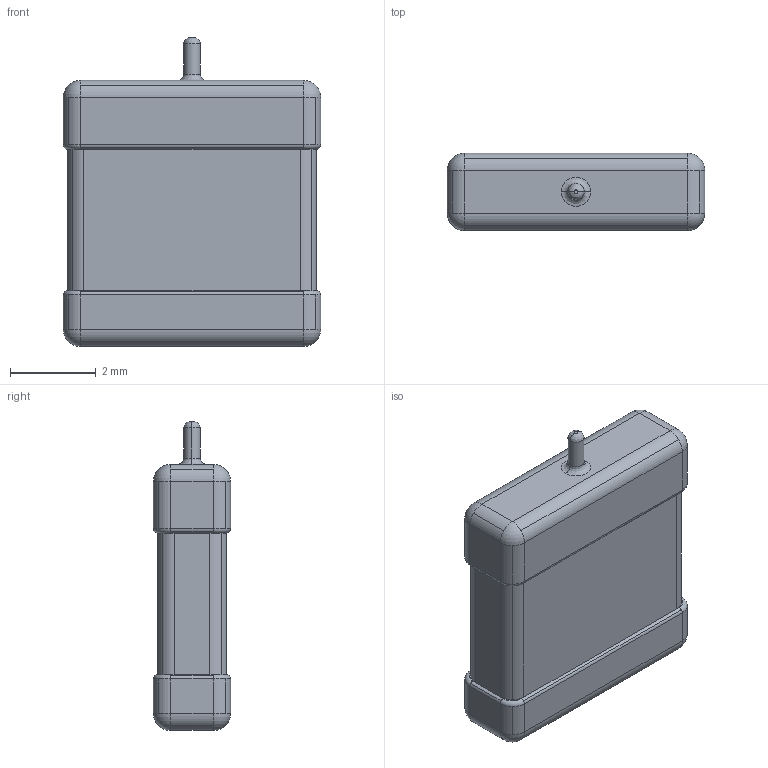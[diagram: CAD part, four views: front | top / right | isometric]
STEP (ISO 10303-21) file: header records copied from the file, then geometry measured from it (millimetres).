
FILE_DESCRIPTION((''),'2;1');
FILE_NAME('591D_R-case_18H.stp','2019-05-13T13:33:01',(''),(''),'AutoCAD STEP 2000i','AutoCAD 2000i',', , ');
FILE_SCHEMA(('CONFIG_CONTROL_DESIGN'));
Length unit declared in the file: millimetre
Products named in the file (2): 591D_R-CASE_18H; MODEL
Assembly tree (1 placements, depth 2):
  591D_R-CASE_18H
    MODEL
Bounding box: 6 x 1.8 x 7.2 mm (x, y, z)
Volume: 60.2 mm3; surface area: 108.8 mm2
Topology: 1 solids, 1 shells, 101 faces, 242 edges, 136 vertices
Faces by surface type: cylinder 58, plane 23, torus 8, sphere 8, bspline 4
Entity records: 3129 total; most frequent: CARTESIAN_POINT 649, DIRECTION 564, ORIENTED_EDGE 468, EDGE_CURVE 234, AXIS2_PLACEMENT_3D 231, VERTEX_POINT 136, CIRCLE 132, VECTOR 102
